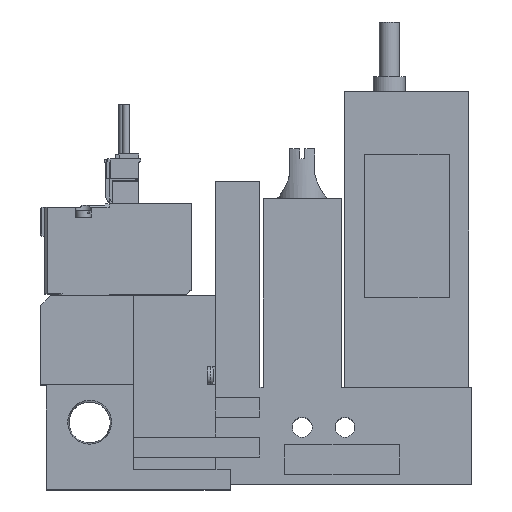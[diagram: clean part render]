
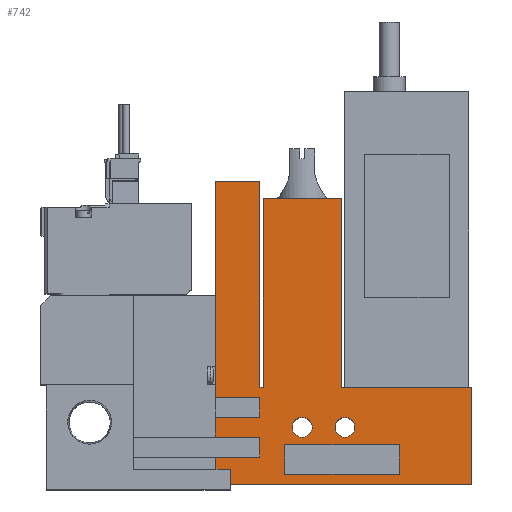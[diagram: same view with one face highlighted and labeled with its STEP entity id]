
A CAD part, top view. The second image highlights one B-rep face of the part: STEP entity #742.
In plain terms, the highlighted planar face has unit normal (0, 0, 1).
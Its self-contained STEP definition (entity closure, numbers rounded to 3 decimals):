
#742=ADVANCED_FACE('',(#1573,#1574,#1575,#1576),#1577,.T.);
#1573=FACE_OUTER_BOUND('',#2563,.T.);
#1574=FACE_BOUND('',#2564,.T.);
#1575=FACE_BOUND('',#2565,.T.);
#1576=FACE_BOUND('',#2566,.T.);
#1577=PLANE('',#2567);
#2563=EDGE_LOOP('',(#5596,#5597,#5598,#5599,#5600,#5601,#5602,#5603,#5604,#5605,#5606,#5607,#5608,#5609,#5610,#5611,#5612,#5613));
#2564=EDGE_LOOP('',(#5614,#5615,#5616,#5617));
#2565=EDGE_LOOP('',(#5618));
#2566=EDGE_LOOP('',(#5619));
#2567=AXIS2_PLACEMENT_3D('',#5620,#5621,#5622);
#5596=ORIENTED_EDGE('',*,*,#7128,.T.);
#5597=ORIENTED_EDGE('',*,*,#7068,.T.);
#5598=ORIENTED_EDGE('',*,*,#7087,.T.);
#5599=ORIENTED_EDGE('',*,*,#7141,.T.);
#5600=ORIENTED_EDGE('',*,*,#6968,.T.);
#5601=ORIENTED_EDGE('',*,*,#7088,.T.);
#5602=ORIENTED_EDGE('',*,*,#7047,.T.);
#5603=ORIENTED_EDGE('',*,*,#7096,.T.);
#5604=ORIENTED_EDGE('',*,*,#7060,.T.);
#5605=ORIENTED_EDGE('',*,*,#7151,.T.);
#5606=ORIENTED_EDGE('',*,*,#7161,.T.);
#5607=ORIENTED_EDGE('',*,*,#7002,.T.);
#5608=ORIENTED_EDGE('',*,*,#7031,.T.);
#5609=ORIENTED_EDGE('',*,*,#7162,.T.);
#5610=ORIENTED_EDGE('',*,*,#7147,.T.);
#5611=ORIENTED_EDGE('',*,*,#7084,.T.);
#5612=ORIENTED_EDGE('',*,*,#7130,.T.);
#5613=ORIENTED_EDGE('',*,*,#7062,.T.);
#5614=ORIENTED_EDGE('',*,*,#7117,.T.);
#5615=ORIENTED_EDGE('',*,*,#7095,.T.);
#5616=ORIENTED_EDGE('',*,*,#7159,.T.);
#5617=ORIENTED_EDGE('',*,*,#7082,.T.);
#5618=ORIENTED_EDGE('',*,*,#7163,.T.);
#5619=ORIENTED_EDGE('',*,*,#7164,.T.);
#5620=CARTESIAN_POINT('',(0.0,0.0,10.0));
#5621=DIRECTION('',(0.0,0.0,1.0));
#5622=DIRECTION('',(1.0,0.0,0.0));
#6968=EDGE_CURVE('',#8531,#8529,#8532,.T.);
#7002=EDGE_CURVE('',#8596,#8594,#8597,.T.);
#7031=EDGE_CURVE('',#8594,#8645,#8647,.T.);
#7047=EDGE_CURVE('',#8666,#8671,#8673,.T.);
#7060=EDGE_CURVE('',#8692,#8696,#8698,.T.);
#7062=EDGE_CURVE('',#8701,#8699,#8702,.T.);
#7068=EDGE_CURVE('',#8706,#8710,#8712,.T.);
#7082=EDGE_CURVE('',#8730,#8735,#8737,.T.);
#7084=EDGE_CURVE('',#8740,#8738,#8741,.T.);
#7087=EDGE_CURVE('',#8710,#8743,#8745,.T.);
#7088=EDGE_CURVE('',#8529,#8666,#8746,.T.);
#7095=EDGE_CURVE('',#8752,#8757,#8759,.T.);
#7096=EDGE_CURVE('',#8671,#8692,#8760,.T.);
#7117=EDGE_CURVE('',#8735,#8752,#8790,.T.);
#7128=EDGE_CURVE('',#8699,#8706,#8808,.T.);
#7130=EDGE_CURVE('',#8738,#8701,#8811,.T.);
#7141=EDGE_CURVE('',#8743,#8531,#8824,.T.);
#7147=EDGE_CURVE('',#8832,#8740,#8833,.T.);
#7151=EDGE_CURVE('',#8696,#8836,#8838,.T.);
#7159=EDGE_CURVE('',#8757,#8730,#8849,.T.);
#7161=EDGE_CURVE('',#8836,#8596,#8851,.T.);
#7162=EDGE_CURVE('',#8645,#8832,#8852,.T.);
#7163=EDGE_CURVE('',#8853,#8853,#8854,.T.);
#7164=EDGE_CURVE('',#8855,#8855,#8856,.T.);
#8529=VERTEX_POINT('',#11023);
#8531=VERTEX_POINT('',#11026);
#8532=LINE('',#11027,#11028);
#8594=VERTEX_POINT('',#11117);
#8596=VERTEX_POINT('',#11120);
#8597=LINE('',#11121,#11122);
#8645=VERTEX_POINT('',#11212);
#8647=LINE('',#11215,#11216);
#8666=VERTEX_POINT('',#11245);
#8671=VERTEX_POINT('',#11252);
#8673=LINE('',#11255,#11256);
#8692=VERTEX_POINT('',#11284);
#8696=VERTEX_POINT('',#11290);
#8698=LINE('',#11293,#11294);
#8699=VERTEX_POINT('',#11295);
#8701=VERTEX_POINT('',#11298);
#8702=LINE('',#11299,#11300);
#8706=VERTEX_POINT('',#11305);
#8710=VERTEX_POINT('',#11311);
#8712=LINE('',#11314,#11315);
#8730=VERTEX_POINT('',#11342);
#8735=VERTEX_POINT('',#11349);
#8737=LINE('',#11352,#11353);
#8738=VERTEX_POINT('',#11354);
#8740=VERTEX_POINT('',#11357);
#8741=LINE('',#11358,#11359);
#8743=VERTEX_POINT('',#11362);
#8745=LINE('',#11365,#11366);
#8746=LINE('',#11367,#11368);
#8752=VERTEX_POINT('',#11377);
#8757=VERTEX_POINT('',#11384);
#8759=LINE('',#11387,#11388);
#8760=LINE('',#11389,#11390);
#8790=LINE('',#11439,#11440);
#8808=LINE('',#11468,#11469);
#8811=LINE('',#11472,#11473);
#8824=LINE('',#11494,#11495);
#8832=VERTEX_POINT('',#11508);
#8833=LINE('',#11509,#11510);
#8836=VERTEX_POINT('',#11515);
#8838=LINE('',#11518,#11519);
#8849=LINE('',#11535,#11536);
#8851=LINE('',#11539,#11540);
#8852=LINE('',#11541,#11542);
#8853=VERTEX_POINT('',#11543);
#8854=CIRCLE('',#11544,2.0);
#8855=VERTEX_POINT('',#11545);
#8856=CIRCLE('',#11546,2.0);
#11023=CARTESIAN_POINT('',(35.1,9.5,10.0));
#11026=CARTESIAN_POINT('',(35.1,13.5,10.0));
#11027=CARTESIAN_POINT('',(35.1,0.0,10.0));
#11028=VECTOR('',#12911,1.0);
#11117=CARTESIAN_POINT('',(60.45,19.5,10.0));
#11120=CARTESIAN_POINT('',(86.6,19.5,10.0));
#11121=CARTESIAN_POINT('',(86.6,19.5,10.0));
#11122=VECTOR('',#12955,1.0);
#11212=CARTESIAN_POINT('',(60.45,57.5,10.0));
#11215=CARTESIAN_POINT('',(60.45,19.5,10.0));
#11216=VECTOR('',#12997,1.0);
#11245=CARTESIAN_POINT('',(44.1,9.5,10.0));
#11252=CARTESIAN_POINT('',(44.1,5.5,10.0));
#11255=CARTESIAN_POINT('',(44.1,0.0,10.0));
#11256=VECTOR('',#13014,1.0);
#11284=CARTESIAN_POINT('',(35.1,5.5,10.0));
#11290=CARTESIAN_POINT('',(35.1,0.0,10.0));
#11293=CARTESIAN_POINT('',(35.1,0.0,10.0));
#11294=VECTOR('',#13027,1.0);
#11295=CARTESIAN_POINT('',(35.1,61.0,10.0));
#11298=CARTESIAN_POINT('',(44.1,61.0,10.0));
#11299=CARTESIAN_POINT('',(44.1,61.0,10.0));
#11300=VECTOR('',#13029,1.0);
#11305=CARTESIAN_POINT('',(35.1,17.5,10.0));
#11311=CARTESIAN_POINT('',(44.1,17.5,10.0));
#11314=CARTESIAN_POINT('',(0.0,17.5,10.0));
#11315=VECTOR('',#13037,1.0);
#11342=CARTESIAN_POINT('',(72.1,2.0,10.0));
#11349=CARTESIAN_POINT('',(49.1,2.0,10.0));
#11352=CARTESIAN_POINT('',(0.0,2.0,10.0));
#11353=VECTOR('',#13053,1.0);
#11354=CARTESIAN_POINT('',(44.1,19.5,10.0));
#11357=CARTESIAN_POINT('',(44.75,19.5,10.0));
#11358=CARTESIAN_POINT('',(44.75,19.5,10.0));
#11359=VECTOR('',#13055,1.0);
#11362=CARTESIAN_POINT('',(44.1,13.5,10.0));
#11365=CARTESIAN_POINT('',(44.1,0.0,10.0));
#11366=VECTOR('',#13058,1.0);
#11367=CARTESIAN_POINT('',(0.0,9.5,10.0));
#11368=VECTOR('',#13059,1.0);
#11377=CARTESIAN_POINT('',(49.1,8.0,10.0));
#11384=CARTESIAN_POINT('',(72.1,8.0,10.0));
#11387=CARTESIAN_POINT('',(0.0,8.0,10.0));
#11388=VECTOR('',#13066,1.0);
#11389=CARTESIAN_POINT('',(0.0,5.5,10.0));
#11390=VECTOR('',#13067,1.0);
#11439=CARTESIAN_POINT('',(49.1,0.0,10.0));
#11440=VECTOR('',#13090,1.0);
#11468=CARTESIAN_POINT('',(35.1,61.0,10.0));
#11469=VECTOR('',#13101,1.0);
#11472=CARTESIAN_POINT('',(44.1,19.5,10.0));
#11473=VECTOR('',#13105,1.0);
#11494=CARTESIAN_POINT('',(0.0,13.5,10.0));
#11495=VECTOR('',#13120,1.0);
#11508=CARTESIAN_POINT('',(44.75,57.5,10.0));
#11509=CARTESIAN_POINT('',(44.75,57.5,10.0));
#11510=VECTOR('',#13126,1.0);
#11515=CARTESIAN_POINT('',(86.6,0.0,10.0));
#11518=CARTESIAN_POINT('',(18.6,0.0,10.0));
#11519=VECTOR('',#13130,1.0);
#11535=CARTESIAN_POINT('',(72.1,0.0,10.0));
#11536=VECTOR('',#13142,1.0);
#11539=CARTESIAN_POINT('',(86.6,0.0,10.0));
#11540=VECTOR('',#13144,1.0);
#11541=CARTESIAN_POINT('',(60.45,57.5,10.0));
#11542=VECTOR('',#13145,1.0);
#11543=CARTESIAN_POINT('',(54.6,11.5,10.0));
#11544=AXIS2_PLACEMENT_3D('',#13146,#13147,#13148);
#11545=CARTESIAN_POINT('',(63.2,11.5,10.0));
#11546=AXIS2_PLACEMENT_3D('',#13149,#13150,#13151);
#12911=DIRECTION('',(0.0,-1.0,0.0));
#12955=DIRECTION('',(-1.0,0.0,0.0));
#12997=DIRECTION('',(0.0,1.0,0.0));
#13014=DIRECTION('',(0.0,-1.0,0.0));
#13027=DIRECTION('',(0.0,-1.0,0.0));
#13029=DIRECTION('',(-1.0,0.0,0.0));
#13037=DIRECTION('',(1.0,0.0,0.0));
#13053=DIRECTION('',(-1.0,0.0,0.0));
#13055=DIRECTION('',(-1.0,0.0,0.0));
#13058=DIRECTION('',(0.0,-1.0,0.0));
#13059=DIRECTION('',(1.0,0.0,0.0));
#13066=DIRECTION('',(1.0,0.0,0.0));
#13067=DIRECTION('',(-1.0,0.0,0.0));
#13090=DIRECTION('',(0.0,1.0,0.0));
#13101=DIRECTION('',(0.0,-1.0,0.0));
#13105=DIRECTION('',(0.0,1.0,0.0));
#13120=DIRECTION('',(-1.0,0.0,0.0));
#13126=DIRECTION('',(0.0,-1.0,0.0));
#13130=DIRECTION('',(1.0,0.0,0.0));
#13142=DIRECTION('',(0.0,-1.0,0.0));
#13144=DIRECTION('',(0.0,1.0,0.0));
#13145=DIRECTION('',(-1.0,0.0,0.0));
#13146=CARTESIAN_POINT('',(52.6,11.5,10.0));
#13147=DIRECTION('',(0.0,0.0,-1.0));
#13148=DIRECTION('',(1.0,0.0,0.0));
#13149=CARTESIAN_POINT('',(61.2,11.5,10.0));
#13150=DIRECTION('',(0.0,0.0,-1.0));
#13151=DIRECTION('',(1.0,0.0,0.0));
